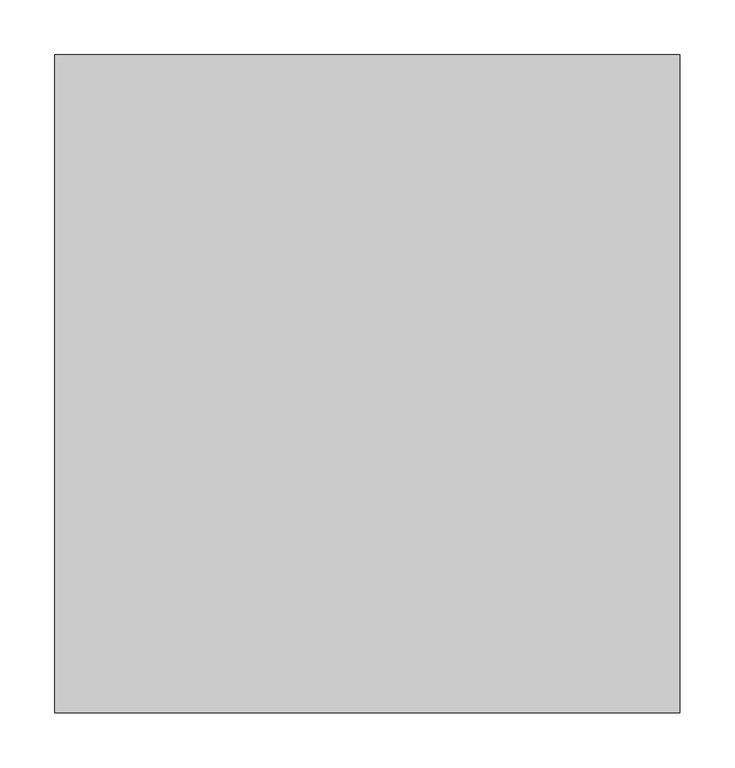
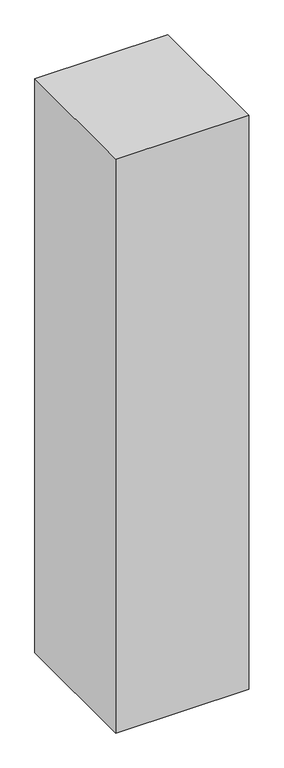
"""IFC4 building model written with IfcOpenShell, lengths in millimetres: furniture geometry, Fu_шкаф 1-с : Шкаф 1-створчатый."""

from ifc_helpers import new_model, si_unit, origin, origin_with_axes, place, context, project, spatial, polyline, outline, extrude, source, transform, mapped, element, save


def furniture_71ebd1c7(model_context):
    return source(origin(), model_context, "Body", "SweptSolid", [
        extrude(outline(polyline([(570.0, 0.0), (0.0, 0.0), (0.0, 600.0), (570.0, 600.0), (570.0, 0.0)])), origin_with_axes(), (0.0, 0.0, 1.0), 2600.0),
    ])


if __name__ == "__main__":
    model = new_model("IFC4")
    model_context = context("Model", 3, world=origin())
    ifc_project = project(units=[si_unit("LENGTHUNIT", "METRE", prefix="MILLI")], contexts=[model_context])
    site = spatial("IfcSite", under=ifc_project)
    building = spatial("IfcBuilding", under=site)
    placement = place(None, origin())
    furniture_shape = furniture_71ebd1c7(model_context)
    element("IfcFurniture", 1, ObjectType="Fu_шкаф 1-с : Шкаф 1-створчатый", at=placement, inside=building, context=model_context, shape_type="MappedRepresentation", body=[
        mapped(furniture_shape, transform((0.0, 0.0, 0.0), x_axis=(1.0, 0.0, 0.0), y_axis=(0.0, 1.0, 0.0), z_axis=(0.0, 0.0, 1.0))),
    ])
    save(model, "model.ifc")
